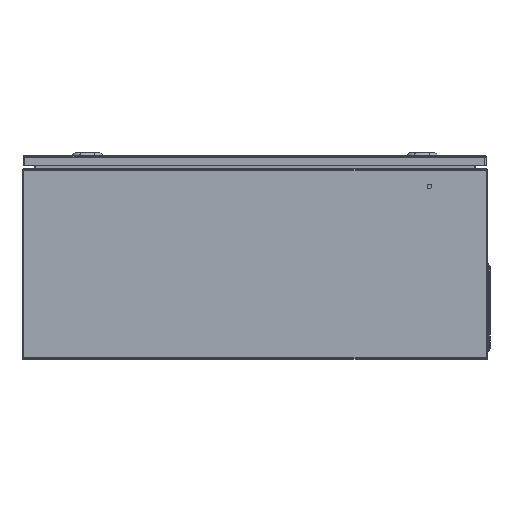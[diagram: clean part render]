
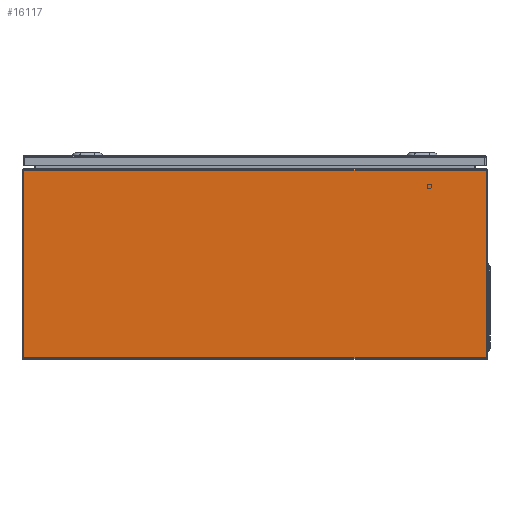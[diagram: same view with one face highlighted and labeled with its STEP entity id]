
A CAD part, left-side view. The second image highlights one B-rep face of the part: STEP entity #16117.
In plain terms, the highlighted planar face has unit normal (-1, 0, 0).
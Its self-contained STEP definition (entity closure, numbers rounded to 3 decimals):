
#95 = DIRECTION ( 'NONE',  ( 1., 0., 0. ) ) ;
#498 = EDGE_LOOP ( 'NONE', ( #18681, #11130, #18117, #7781 ) ) ;
#921 = AXIS2_PLACEMENT_3D ( 'NONE', #25365, #95, #3964 ) ;
#1517 = VERTEX_POINT ( 'NONE', #17914 ) ;
#2113 = VECTOR ( 'NONE', #22087, 1000. ) ;
#2560 = EDGE_CURVE ( 'NONE', #22879, #1517, #12642, .T. ) ;
#2667 = LINE ( 'NONE', #12379, #2113 ) ;
#3375 = DIRECTION ( 'NONE',  ( 0., -1., 0. ) ) ;
#3491 = CARTESIAN_POINT ( 'NONE',  ( -300., -400., 2.35 ) ) ;
#3964 = DIRECTION ( 'NONE',  ( 0., 0., -1. ) ) ;
#4084 = VECTOR ( 'NONE', #3375, 1000. ) ;
#5975 = CARTESIAN_POINT ( 'NONE',  ( -300., 400., 324.5 ) ) ;
#7781 = ORIENTED_EDGE ( 'NONE', *, *, #9204, .F. ) ;
#7928 = EDGE_CURVE ( 'NONE', #11517, #17529, #2667, .T. ) ;
#9204 = EDGE_CURVE ( 'NONE', #22879, #17529, #10006, .T. ) ;
#9215 = CARTESIAN_POINT ( 'NONE',  ( -300., -397.5, 324.5 ) ) ;
#9535 = PLANE ( 'NONE',  #921 ) ;
#10006 = LINE ( 'NONE', #5975, #21337 ) ;
#10902 = CARTESIAN_POINT ( 'NONE',  ( -300., -397.5, 2.35 ) ) ;
#11130 = ORIENTED_EDGE ( 'NONE', *, *, #11872, .T. ) ;
#11517 = VERTEX_POINT ( 'NONE', #10902 ) ;
#11872 = EDGE_CURVE ( 'NONE', #1517, #11517, #13342, .T. ) ;
#12379 = CARTESIAN_POINT ( 'NONE',  ( -300., -397.5, 1.5 ) ) ;
#12642 = LINE ( 'NONE', #18482, #21240 ) ;
#12809 = CARTESIAN_POINT ( 'NONE',  ( -300., 397.5, 324.5 ) ) ;
#13342 = LINE ( 'NONE', #3491, #4084 ) ;
#13908 = DIRECTION ( 'NONE',  ( 0., -1., 0. ) ) ;
#16117 = ADVANCED_FACE ( 'NONE', ( #21709 ), #9535, .F. ) ;
#16683 = DIRECTION ( 'NONE',  ( 0., 0., -1. ) ) ;
#17529 = VERTEX_POINT ( 'NONE', #9215 ) ;
#17914 = CARTESIAN_POINT ( 'NONE',  ( -300., 397.5, 2.35 ) ) ;
#18117 = ORIENTED_EDGE ( 'NONE', *, *, #7928, .T. ) ;
#18482 = CARTESIAN_POINT ( 'NONE',  ( -300., 397.5, 1.5 ) ) ;
#18681 = ORIENTED_EDGE ( 'NONE', *, *, #2560, .T. ) ;
#21240 = VECTOR ( 'NONE', #16683, 1000. ) ;
#21337 = VECTOR ( 'NONE', #13908, 1000. ) ;
#21709 = FACE_OUTER_BOUND ( 'NONE', #498, .T. ) ;
#22087 = DIRECTION ( 'NONE',  ( 0., 0., 1. ) ) ;
#22879 = VERTEX_POINT ( 'NONE', #12809 ) ;
#25365 = CARTESIAN_POINT ( 'NONE',  ( -300., -400., 1.5 ) ) ;
